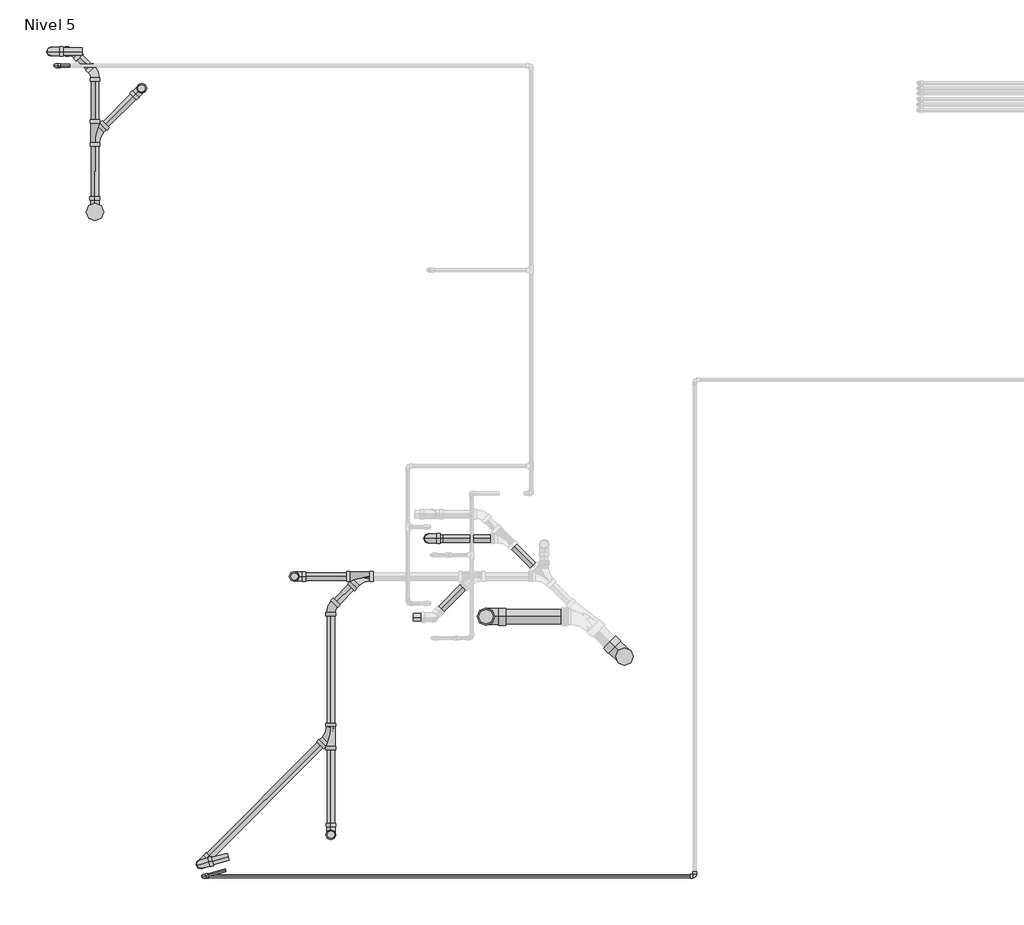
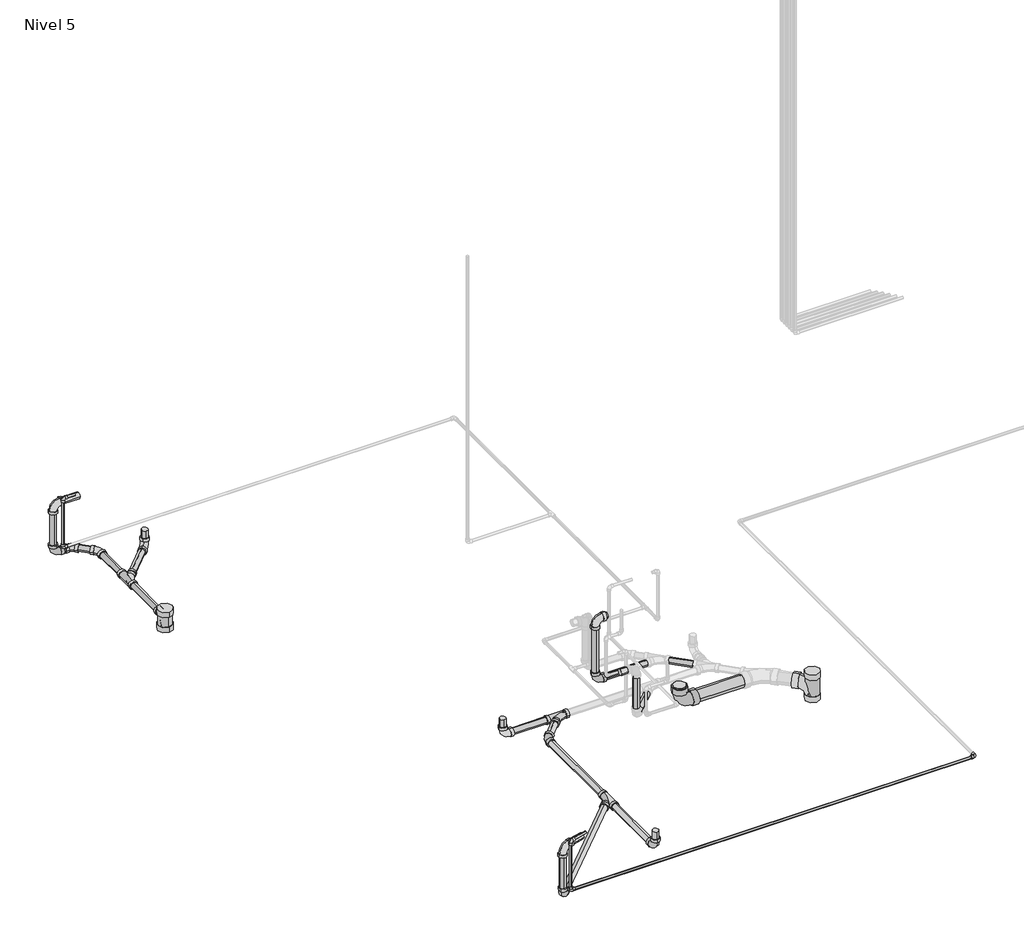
# One storey, part 1 of 6: 31 pipe segments, 23 pipe fittings.
"""IFC4 building model written with IfcOpenShell, lengths in millimetres."""

from ifc_helpers import new_model, si_unit, point, frame, frame_2d, origin, place, context, project, spatial, circle_curve, trimmed, segment, composite_curve, outline, extrude, transform, mapped, element, save
from components import pipe_fitting_0163322b, pipe_fitting_2a8dfbef, pipe_fitting_f7ed332b, m_codo_pvc_serie_40_9ad74631, m_codo_pvc_serie_40_dwv1_5c0ec739, m_codo_pvc_serie_40_dwv1_f5c0a64d, m_codo_pvc_serie_40_dwv1_6f1a2495

model = new_model("IFC4")

# Units and contexts
model_context = context("Model", 3, world=origin())
ifc_project = project(units=[si_unit("LENGTHUNIT", "METRE", prefix="MILLI")], contexts=[model_context])

# Site, building, storey
site = spatial("IfcSite", under=ifc_project)
building = spatial("IfcBuilding", under=site)
storey = spatial("IfcBuildingStorey", under=building, Name="Nivel 5", Elevation=10750.0)

# Pipe fittings
placement = place(None, origin())
pipe_fitting_shape = pipe_fitting_0163322b(model_context)
element("IfcPipeFitting", 1, ObjectType="M_Sanitario con te de reducción - PVC - Serie 40 - DWV : Estándar", at=placement, inside=storey, context=model_context, shape_type="MappedRepresentation", body=[
    mapped(pipe_fitting_shape, transform((-1127.6301597, 7668.282124, 10600.0), x_axis=(0.0, 1.0, 0.0), y_axis=(-1.0, 0.0, 0.0), z_axis=(0.0, 0.0, 1.0))),
])
element("IfcPipeFitting", 2, ObjectType="M_Sanitario con te de reducción - PVC - Serie 40 - DWV : Estándar", at=placement, inside=storey, context=model_context, shape_type="MappedRepresentation", body=[
    mapped(pipe_fitting_shape, transform((553.5658356, 3393.309347, 10600.0), x_axis=(0.0, -1.0, 0.0), y_axis=(1.0, 0.0, 0.0), z_axis=(0.0, 0.0, 1.0))),
])
element("IfcPipeFitting", 3, ObjectType="M_Sanitario con te de reducción - PVC - Serie 40 - DWV : Estándar", at=placement, inside=storey, context=model_context, shape_type="MappedRepresentation", body=[
    mapped(pipe_fitting_shape, transform((774.9011546, 4519.5791327, 10600.0), x_axis=(-1.0, 0.0, 0.0), y_axis=(0.0, 1.0, 0.0), z_axis=(0.0, 0.0, -1.0))),
])
pipe_fitting_2_shape = pipe_fitting_2a8dfbef(model_context)
element("IfcPipeFitting", 4, ObjectType="M_Sanitario con te de reducción - PVC - Serie 40 - DWV : Estándar", at=placement, inside=storey, context=model_context, shape_type="MappedRepresentation", body=[
    mapped(pipe_fitting_2_shape, transform((2645.0, 3948.3062341, 10600.0), x_axis=(0.0, 0.0, 1.0), y_axis=(0.7098215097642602, -0.7043815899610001, 0.0), z_axis=(0.7043815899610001, 0.7098215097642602, 0.0))),
])
pipe_fitting_3_shape = pipe_fitting_f7ed332b(model_context)
element("IfcPipeFitting", 5, ObjectType="M_Sanitario con te de reducción - PVC - Serie 40 - DWV : Estándar", at=placement, inside=storey, context=model_context, shape_type="MappedRepresentation", body=[
    mapped(pipe_fitting_3_shape, transform((-1128.3876566, 7119.3043981, 10600.0), x_axis=(0.0, 0.0, 1.0), y_axis=(-0.002102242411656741, -0.9999977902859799, 0.0), z_axis=(0.9999977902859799, -0.002102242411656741, 0.0))),
])
m_codo_pvc_serie_40_shape = m_codo_pvc_serie_40_9ad74631(model_context)
element("IfcPipeFitting", 6, ObjectType="M_Codo - PVC - Serie 40 : Estándar", at=placement, inside=storey, context=model_context, shape_type="MappedRepresentation", body=[
    mapped(m_codo_pvc_serie_40_shape, transform((-1408.4611801, 8163.1716188, 10700.0), x_axis=(-1.0, 0.0, 0.0), y_axis=(0.0, 0.0, 1.0), z_axis=(0.0, 1.0, 0.0))),
])
element("IfcPipeFitting", 7, ObjectType="M_Codo - PVC - Serie 40 : Estándar", at=placement, inside=storey, context=model_context, shape_type="MappedRepresentation", body=[
    mapped(m_codo_pvc_serie_40_shape, transform((-1408.4611801, 8163.1716188, 11150.0), x_axis=(0.0, 0.0, 1.0), y_axis=(1.0, 0.0, 0.0), z_axis=(0.0, 1.0, 0.0))),
])
element("IfcPipeFitting", 8, ObjectType="M_Codo - PVC - Serie 40 : Estándar", at=placement, inside=storey, context=model_context, shape_type="MappedRepresentation", body=[
    mapped(m_codo_pvc_serie_40_shape, transform((-352.1210753, 2381.9268515, 11150.0), x_axis=(-0.9659258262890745, -0.2588190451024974, 0.0), y_axis=(0.0, 0.0, -1.0), z_axis=(0.2588190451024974, -0.9659258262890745, 0.0))),
])
element("IfcPipeFitting", 9, ObjectType="M_Codo - PVC - Serie 40 : Estándar", at=placement, inside=storey, context=model_context, shape_type="MappedRepresentation", body=[
    mapped(m_codo_pvc_serie_40_shape, transform((-352.1210753, 2381.9268515, 10700.0), x_axis=(0.0, 0.0, -1.0), y_axis=(1.0, 0.0, 0.0), z_axis=(0.0, -1.0, 0.0))),
])
element("IfcPipeFitting", 10, ObjectType="M_Codo - PVC - Serie 40 : Estándar", at=placement, inside=storey, context=model_context, shape_type="MappedRepresentation", body=[
    mapped(m_codo_pvc_serie_40_shape, transform((3147.8789247, 2381.9268515, 10700.0), x_axis=(1.0, 0.0, 0.0), y_axis=(0.0, 1.0, 0.0), z_axis=(0.0, 0.0, 1.0))),
])
m_codo_pvc_serie_40_dwv1_shape = m_codo_pvc_serie_40_dwv1_5c0ec739(model_context)
element("IfcPipeFitting", 11, ObjectType="M_Codo - PVC - Serie 40 - DWV1 : Estándar 2", at=placement, inside=storey, context=model_context, shape_type="MappedRepresentation", body=[
    mapped(m_codo_pvc_serie_40_dwv1_shape, transform((-1437.6301597, 8263.282124, 11050.0), x_axis=(-1.0, 0.0, 0.0), y_axis=(0.0, 0.0, -1.0), z_axis=(0.0, -1.0, 0.0))),
])
element("IfcPipeFitting", 12, ObjectType="M_Codo - PVC - Serie 40 - DWV1 : Estándar 2", at=placement, inside=storey, context=model_context, shape_type="MappedRepresentation", body=[
    mapped(m_codo_pvc_serie_40_dwv1_shape, transform((-1437.6301597, 8263.282124, 10600.0), x_axis=(0.0, 0.0, -1.0), y_axis=(1.0, 0.0, 0.0), z_axis=(0.0, -1.0, 0.0))),
])
element("IfcPipeFitting", 13, ObjectType="M_Codo - PVC - Serie 40 - DWV1 : Estándar 2", at=placement, inside=storey, context=model_context, shape_type="MappedRepresentation", body=[
    mapped(m_codo_pvc_serie_40_dwv1_shape, transform((-795.6453116, 8000.2669721, 10600.0), x_axis=(0.7071067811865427, 0.7071067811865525, 0.0), y_axis=(0.0, 0.0, 1.0000000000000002), z_axis=(0.7071067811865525, -0.7071067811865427, 0.0))),
])
element("IfcPipeFitting", 14, ObjectType="M_Codo - PVC - Serie 40 - DWV1 : Estándar 2", at=placement, inside=storey, context=model_context, shape_type="MappedRepresentation", body=[
    mapped(m_codo_pvc_serie_40_dwv1_shape, transform((1250.0, 4790.0, 11160.6716548), x_axis=(-1.0, 0.0, 0.0), y_axis=(0.0, 0.0, -1.0), z_axis=(0.0, -1.0, 0.0))),
])
element("IfcPipeFitting", 15, ObjectType="M_Codo - PVC - Serie 40 - DWV1 : Estándar 2", at=placement, inside=storey, context=model_context, shape_type="MappedRepresentation", body=[
    mapped(m_codo_pvc_serie_40_dwv1_shape, transform((1250.0, 4790.0, 10600.0), x_axis=(0.0, 0.0, -1.0), y_axis=(1.0, 0.0, 0.0), z_axis=(0.0, -1.0, 0.0))),
])
element("IfcPipeFitting", 16, ObjectType="M_Codo - PVC - Serie 40 - DWV1 : Estándar 2", at=placement, inside=storey, context=model_context, shape_type="MappedRepresentation", body=[
    mapped(m_codo_pvc_serie_40_dwv1_shape, transform((-370.9157193, 2468.827792, 11050.0), x_axis=(-0.9659258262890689, -0.25881904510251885, 0.0), y_axis=(0.0, 0.0, -1.0), z_axis=(0.25881904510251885, -0.9659258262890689, 0.0))),
])
element("IfcPipeFitting", 17, ObjectType="M_Codo - PVC - Serie 40 - DWV1 : Estándar 2", at=placement, inside=storey, context=model_context, shape_type="MappedRepresentation", body=[
    mapped(m_codo_pvc_serie_40_dwv1_shape, transform((-370.9157193, 2468.827792, 10600.0), x_axis=(0.0, 0.0, -1.0), y_axis=(0.7071067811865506, 0.7071067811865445, 0.0), z_axis=(0.7071067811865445, -0.7071067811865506, 0.0))),
])
element("IfcPipeFitting", 18, ObjectType="M_Codo - PVC - Serie 40 - DWV1 : Estándar 2", at=placement, inside=storey, context=model_context, shape_type="MappedRepresentation", body=[
    mapped(m_codo_pvc_serie_40_dwv1_shape, transform((553.5658356, 2678.1090702, 10600.0), x_axis=(0.0, -1.0, 0.0), y_axis=(0.0, 0.0, 1.0), z_axis=(-1.0, 0.0, 0.0))),
])
element("IfcPipeFitting", 19, ObjectType="M_Codo - PVC - Serie 40 - DWV1 : Estándar 2", at=placement, inside=storey, context=model_context, shape_type="MappedRepresentation", body=[
    mapped(m_codo_pvc_serie_40_dwv1_shape, transform((293.5658356, 4519.5791327, 10600.0), x_axis=(-1.0, 0.0, 0.0), y_axis=(0.0, 0.0, 1.0), z_axis=(0.0, 1.0, 0.0))),
])
m_codo_pvc_serie_40_dwv1_2_shape = m_codo_pvc_serie_40_dwv1_f5c0a64d(model_context)
element("IfcPipeFitting", 20, ObjectType="M_Codo - PVC - Serie 40 - DWV1 : Estándar 2", at=placement, inside=storey, context=model_context, shape_type="MappedRepresentation", body=[
    mapped(m_codo_pvc_serie_40_dwv1_2_shape, transform((1659.2960274, 4233.3960274, 10600.0), x_axis=(0.0, 0.0, -1.0), y_axis=(1.0, 0.0, 0.0), z_axis=(0.0, -1.0, 0.0))),
])
m_codo_pvc_serie_40_dwv1_3_shape = m_codo_pvc_serie_40_dwv1_6f1a2495(model_context)
element("IfcPipeFitting", 21, ObjectType="M_Codo - PVC - Serie 40 - DWV1 : Estándar 2", at=placement, inside=storey, context=model_context, shape_type="MappedRepresentation", body=[
    mapped(m_codo_pvc_serie_40_dwv1_3_shape, transform((-1280.1722222, 8263.282124, 10600.0), x_axis=(-0.7071067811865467, 0.7071067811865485, 0.0), y_axis=(-0.7071067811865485, -0.7071067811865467, 0.0), z_axis=(0.0, 0.0, 1.0))),
])
element("IfcPipeFitting", 22, ObjectType="M_Codo - PVC - Serie 40 - DWV1 : Estándar 2", at=placement, inside=storey, context=model_context, shape_type="MappedRepresentation", body=[
    mapped(m_codo_pvc_serie_40_dwv1_3_shape, transform((-1127.6301597, 8110.7400615, 10600.0), x_axis=(0.0, 1.0, 0.0), y_axis=(-1.0, 0.0, 0.0), z_axis=(0.0, 0.0, 1.0))),
])
element("IfcPipeFitting", 23, ObjectType="M_Codo - PVC - Serie 40 - DWV1 : Estándar 2", at=placement, inside=storey, context=model_context, shape_type="MappedRepresentation", body=[
    mapped(m_codo_pvc_serie_40_dwv1_3_shape, transform((553.5658356, 4298.2438137, 10600.0), x_axis=(-0.7071067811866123, -0.7071067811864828, 0.0), y_axis=(0.7071067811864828, -0.7071067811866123, 0.0), z_axis=(0.0, 0.0, 1.0))),
])

# Pipe segments
element("IfcPipeSegment", 24, ObjectType="Tuberia PVC Agua Fria", at=placement, inside=storey, context=model_context, shape_type="SweptSolid", body=[
    extrude(outline(composite_curve([segment(trimmed(circle_curve(frame_2d((8163.1716188, 11150.0)), 10.31875), [point((8152.8528688, 11150.0))], [point((8163.1716188, 11160.31875))], False, "CARTESIAN"), True, "CONTINUOUS"), segment(trimmed(circle_curve(frame_2d((8163.1716188, 11150.0)), 10.31875), [point((8163.1716188, 11160.31875))], [point((8173.4903688, 11150.0))], False, "CARTESIAN"), True, "CONTINUOUS"), segment(trimmed(circle_curve(frame_2d((8163.1716188, 11150.0)), 10.31875), [point((8173.4903688, 11150.0))], [point((8163.1716188, 11139.68125))], False, "CARTESIAN"), True, "CONTINUOUS"), segment(trimmed(circle_curve(frame_2d((8163.1716188, 11150.0)), 10.31875), [point((8163.1716188, 11139.68125))], [point((8152.8528688, 11150.0))], False, "CARTESIAN"), True, "CONTINUOUS")], self_intersect=False)), frame((-1375.0601801, 0.0, 0.0), z_axis=(1.0, 0.0, 0.0), x_axis=(0.0, 1.0, 0.0)), (0.0, 0.0, 1.0), 66.599),
])
element("IfcPipeSegment", 25, ObjectType="Tuberia PVC Agua Fria", at=placement, inside=storey, context=model_context, shape_type="SweptSolid", body=[
    extrude(outline(composite_curve([segment(trimmed(circle_curve(frame_2d((-1408.4611801, 8163.1716188)), 10.31875), [point((-1418.7799301, 8163.1716188))], [point((-1408.4611801, 8173.4903688))], False, "CARTESIAN"), True, "CONTINUOUS"), segment(trimmed(circle_curve(frame_2d((-1408.4611801, 8163.1716188)), 10.31875), [point((-1408.4611801, 8173.4903688))], [point((-1398.1424301, 8163.1716188))], False, "CARTESIAN"), True, "CONTINUOUS"), segment(trimmed(circle_curve(frame_2d((-1408.4611801, 8163.1716188)), 10.31875), [point((-1398.1424301, 8163.1716188))], [point((-1408.4611801, 8152.8528688))], False, "CARTESIAN"), True, "CONTINUOUS"), segment(trimmed(circle_curve(frame_2d((-1408.4611801, 8163.1716188)), 10.31875), [point((-1408.4611801, 8152.8528688))], [point((-1418.7799301, 8163.1716188))], False, "CARTESIAN"), True, "CONTINUOUS")], self_intersect=False)), frame((0.0, 0.0, 10733.401), z_axis=(0.0, 0.0, 1.0), x_axis=(1.0, 0.0, 0.0)), (0.0, 0.0, 1.0), 383.198),
])
element("IfcPipeSegment", 26, ObjectType="Tuberia PVC Agua Fria", at=placement, inside=storey, context=model_context, shape_type="SweptSolid", body=[
    extrude(outline(composite_curve([segment(trimmed(circle_curve(frame_2d((0.0, -10.31875)), 10.31875), [point((-10.31875, -10.31875))], [point((0.0, 0.0))], False, "CARTESIAN"), True, "CONTINUOUS"), segment(trimmed(circle_curve(frame_2d((0.0, -10.31875)), 10.31875), [point((0.0, 0.0))], [point((10.31875, -10.31875))], False, "CARTESIAN"), True, "CONTINUOUS"), segment(trimmed(circle_curve(frame_2d((0.0, -10.31875)), 10.31875), [point((10.31875, -10.31875))], [point((0.0, -20.6375))], False, "CARTESIAN"), True, "CONTINUOUS"), segment(trimmed(circle_curve(frame_2d((0.0, -10.31875)), 10.31875), [point((0.0, -20.6375))], [point((-10.31875, -10.31875))], False, "CARTESIAN"), True, "CONTINUOUS")], self_intersect=False)), frame((-319.8581868, 2390.5716664, 11139.68125), z_axis=(0.9659258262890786, 0.2588190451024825, 0.0), x_axis=(0.2588190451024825, -0.9659258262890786, 0.0)), (0.0, 0.0, 1.0), 126.599),
])
element("IfcPipeSegment", 27, ObjectType="Tuberia PVC Agua Fria", at=placement, inside=storey, context=model_context, shape_type="SweptSolid", body=[
    extrude(outline(composite_curve([segment(trimmed(circle_curve(frame_2d((2381.9268515, 10700.0)), 10.31875), [point((2371.6081015, 10700.0))], [point((2381.9268515, 10710.31875))], False, "CARTESIAN"), True, "CONTINUOUS"), segment(trimmed(circle_curve(frame_2d((2381.9268515, 10700.0)), 10.31875), [point((2381.9268515, 10710.31875))], [point((2392.2456015, 10700.0))], False, "CARTESIAN"), True, "CONTINUOUS"), segment(trimmed(circle_curve(frame_2d((2381.9268515, 10700.0)), 10.31875), [point((2392.2456015, 10700.0))], [point((2381.9268515, 10689.68125))], False, "CARTESIAN"), True, "CONTINUOUS"), segment(trimmed(circle_curve(frame_2d((2381.9268515, 10700.0)), 10.31875), [point((2381.9268515, 10689.68125))], [point((2371.6081015, 10700.0))], False, "CARTESIAN"), True, "CONTINUOUS")], self_intersect=False)), frame((-318.7200753, 0.0, 0.0), z_axis=(1.0, 0.0, 0.0), x_axis=(0.0, 1.0, 0.0)), (0.0, 0.0, 1.0), 3433.198),
])
element("IfcPipeSegment", 28, ObjectType="Tuberia PVC Agua Fria", at=placement, inside=storey, context=model_context, shape_type="SweptSolid", body=[
    extrude(outline(composite_curve([segment(trimmed(circle_curve(frame_2d((-352.1210753, 2381.9268515)), 10.31875), [point((-341.8023253, 2381.9268515))], [point((-352.1210753, 2371.6081015))], False, "CARTESIAN"), True, "CONTINUOUS"), segment(trimmed(circle_curve(frame_2d((-352.1210753, 2381.9268515)), 10.31875), [point((-352.1210753, 2371.6081015))], [point((-362.4398253, 2381.9268515))], False, "CARTESIAN"), True, "CONTINUOUS"), segment(trimmed(circle_curve(frame_2d((-352.1210753, 2381.9268515)), 10.31875), [point((-362.4398253, 2381.9268515))], [point((-352.1210753, 2392.2456015))], False, "CARTESIAN"), True, "CONTINUOUS"), segment(trimmed(circle_curve(frame_2d((-352.1210753, 2381.9268515)), 10.31875), [point((-352.1210753, 2392.2456015))], [point((-341.8023253, 2381.9268515))], False, "CARTESIAN"), True, "CONTINUOUS")], self_intersect=False)), frame((0.0, 0.0, 10733.401), z_axis=(0.0, 0.0, 1.0), x_axis=(1.0, 0.0, 0.0)), (0.0, 0.0, 1.0), 383.198),
])
element("IfcPipeSegment", 29, ObjectType="Tuberia PVC Sanitario", at=placement, inside=storey, context=model_context, shape_type="SweptSolid", body=[
    extrude(outline(composite_curve([segment(trimmed(circle_curve(frame_2d((8263.282124, 11050.0)), 26.9875), [point((8290.269624, 11050.0))], [point((8263.282124, 11023.0125))], False, "CARTESIAN"), True, "CONTINUOUS"), segment(trimmed(circle_curve(frame_2d((8263.282124, 11050.0)), 26.9875), [point((8263.282124, 11023.0125))], [point((8236.294624, 11050.0))], False, "CARTESIAN"), True, "CONTINUOUS"), segment(trimmed(circle_curve(frame_2d((8263.282124, 11050.0)), 26.9875), [point((8236.294624, 11050.0))], [point((8263.282124, 11076.9875))], False, "CARTESIAN"), True, "CONTINUOUS"), segment(trimmed(circle_curve(frame_2d((8263.282124, 11050.0)), 26.9875), [point((8263.282124, 11076.9875))], [point((8290.269624, 11050.0))], False, "CARTESIAN"), True, "CONTINUOUS")], self_intersect=False)), frame((-1355.0880972, 0.0, 0.0), z_axis=(1.0, 0.0, 0.0), x_axis=(0.0, 1.0, 0.0)), (0.0, 0.0, 1.0), 137.4579375),
])
element("IfcPipeSegment", 30, ObjectType="Tuberia PVC Sanitario", at=placement, inside=storey, context=model_context, shape_type="SweptSolid", body=[
    extrude(outline(composite_curve([segment(trimmed(circle_curve(frame_2d((8263.282124, 10600.0)), 26.9875), [point((8236.294624, 10600.0))], [point((8263.282124, 10626.9875))], False, "CARTESIAN"), True, "CONTINUOUS"), segment(trimmed(circle_curve(frame_2d((8263.282124, 10600.0)), 26.9875), [point((8263.282124, 10626.9875))], [point((8290.269624, 10600.0))], False, "CARTESIAN"), True, "CONTINUOUS"), segment(trimmed(circle_curve(frame_2d((8263.282124, 10600.0)), 26.9875), [point((8290.269624, 10600.0))], [point((8263.282124, 10573.0125))], False, "CARTESIAN"), True, "CONTINUOUS"), segment(trimmed(circle_curve(frame_2d((8263.282124, 10600.0)), 26.9875), [point((8263.282124, 10573.0125))], [point((8236.294624, 10600.0))], False, "CARTESIAN"), True, "CONTINUOUS")], self_intersect=False)), frame((-1355.0880972, 0.0, 0.0), z_axis=(1.0, 0.0, 0.0), x_axis=(0.0, 1.0, 0.0)), (0.0, 0.0, 1.0), 14.4876875),
])
element("IfcPipeSegment", 31, ObjectType="Tuberia PVC Sanitario", at=placement, inside=storey, context=model_context, shape_type="SweptSolid", body=[
    extrude(outline(composite_curve([segment(trimmed(circle_curve(frame_2d((-1437.6301597, 8263.282124)), 26.9875), [point((-1410.6426597, 8263.282124))], [point((-1437.6301597, 8236.294624))], False, "CARTESIAN"), True, "CONTINUOUS"), segment(trimmed(circle_curve(frame_2d((-1437.6301597, 8263.282124)), 26.9875), [point((-1437.6301597, 8236.294624))], [point((-1464.6176597, 8263.282124))], False, "CARTESIAN"), True, "CONTINUOUS"), segment(trimmed(circle_curve(frame_2d((-1437.6301597, 8263.282124)), 26.9875), [point((-1464.6176597, 8263.282124))], [point((-1437.6301597, 8290.269624))], False, "CARTESIAN"), True, "CONTINUOUS"), segment(trimmed(circle_curve(frame_2d((-1437.6301597, 8263.282124)), 26.9875), [point((-1437.6301597, 8290.269624))], [point((-1410.6426597, 8263.282124))], False, "CARTESIAN"), True, "CONTINUOUS")], self_intersect=False)), frame((0.0, 0.0, 10682.5420625), z_axis=(0.0, 0.0, 1.0), x_axis=(1.0, 0.0, 0.0)), (0.0, 0.0, 1.0), 284.915875),
])
element("IfcPipeSegment", 32, ObjectType="Tuberia PVC Sanitario", at=placement, inside=storey, context=model_context, shape_type="SweptSolid", body=[
    extrude(outline(composite_curve([segment(trimmed(circle_curve(frame_2d((0.0, -26.9875)), 26.9875), [point((0.0, 0.0))], [point((26.9875, -26.9875))], False, "CARTESIAN"), True, "CONTINUOUS"), segment(trimmed(circle_curve(frame_2d((0.0, -26.9875)), 26.9875), [point((26.9875, -26.9875))], [point((0.0, -53.975))], False, "CARTESIAN"), True, "CONTINUOUS"), segment(trimmed(circle_curve(frame_2d((0.0, -26.9875)), 26.9875), [point((0.0, -53.975))], [point((-26.9875, -26.9875))], False, "CARTESIAN"), True, "CONTINUOUS"), segment(trimmed(circle_curve(frame_2d((0.0, -26.9875)), 26.9875), [point((-26.9875, -26.9875))], [point((0.0, 0.0))], False, "CARTESIAN"), True, "CONTINUOUS")], self_intersect=False)), frame((-1155.1465802, 7228.0597434, 10600.0), z_axis=(0.0014679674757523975, 0.9999989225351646, 0.0), x_axis=(0.0, 0.0, -1.0)), (0.0, 0.0, 1.0), 360.3279189),
])
element("IfcPipeSegment", 33, ObjectType="Tuberia PVC Sanitario", at=placement, inside=storey, context=model_context, shape_type="SweptSolid", body=[
    extrude(outline(composite_curve([segment(trimmed(circle_curve(frame_2d((0.0, 26.9875)), 26.9875), [point((26.9875001, 26.9875))], [point((0.0, 0.0))], False, "CARTESIAN"), True, "CONTINUOUS"), segment(trimmed(circle_curve(frame_2d((0.0, 26.9875)), 26.9875), [point((0.0, 0.0))], [point((-26.9874999, 26.9875))], False, "CARTESIAN"), True, "CONTINUOUS"), segment(trimmed(circle_curve(frame_2d((0.0, 26.9875)), 26.9875), [point((-26.9874999, 26.9875))], [point((0.0, 53.975))], False, "CARTESIAN"), True, "CONTINUOUS"), segment(trimmed(circle_curve(frame_2d((0.0, 26.9875)), 26.9875), [point((0.0, 53.975))], [point((26.9875001, 26.9875))], False, "CARTESIAN"), True, "CONTINUOUS")], self_intersect=False)), frame((-1050.6703499, 7745.2419338, 10626.9875), z_axis=(0.7071067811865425, 0.7071067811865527, 0.0), x_axis=(0.7071067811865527, -0.7071067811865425, 0.0)), (0.0, 0.0, 1.0), 278.1178055),
])
element("IfcPipeSegment", 34, ObjectType="Tuberia PVC Sanitario", at=placement, inside=storey, context=model_context, shape_type="SweptSolid", body=[
    extrude(outline(composite_curve([segment(trimmed(circle_curve(frame_2d((0.0, -26.9875)), 26.9875), [point((-26.9875001, -26.9875))], [point((0.0, 0.0))], False, "CARTESIAN"), True, "CONTINUOUS"), segment(trimmed(circle_curve(frame_2d((0.0, -26.9875)), 26.9875), [point((0.0, 0.0))], [point((26.9875, -26.9875))], False, "CARTESIAN"), True, "CONTINUOUS"), segment(trimmed(circle_curve(frame_2d((0.0, -26.9875)), 26.9875), [point((26.9875, -26.9875))], [point((0.0, -53.975))], False, "CARTESIAN"), True, "CONTINUOUS"), segment(trimmed(circle_curve(frame_2d((0.0, -26.9875)), 26.9875), [point((0.0, -53.975))], [point((-26.9875001, -26.9875))], False, "CARTESIAN"), True, "CONTINUOUS")], self_intersect=False)), frame((-1170.3593408, 8153.4692427, 10573.0125), z_axis=(-0.7071067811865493, 0.7071067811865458, 0.0), x_axis=(0.7071067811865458, 0.7071067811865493, 0.0)), (0.0, 0.0, 1.0), 94.8706786),
])
element("IfcPipeSegment", 35, ObjectType="Tuberia PVC Sanitario", at=placement, inside=storey, context=model_context, shape_type="SweptSolid", body=[
    extrude(outline(composite_curve([segment(trimmed(circle_curve(frame_2d((10600.0, -1127.6301597)), 26.9875), [point((10600.0, -1154.6176597))], [point((10573.0125, -1127.6301597))], False, "CARTESIAN"), True, "CONTINUOUS"), segment(trimmed(circle_curve(frame_2d((10600.0, -1127.6301597)), 26.9875), [point((10573.0125, -1127.6301597))], [point((10600.0, -1100.6426597))], False, "CARTESIAN"), True, "CONTINUOUS"), segment(trimmed(circle_curve(frame_2d((10600.0, -1127.6301597)), 26.9875), [point((10600.0, -1100.6426597))], [point((10626.9875, -1127.6301597))], False, "CARTESIAN"), True, "CONTINUOUS"), segment(trimmed(circle_curve(frame_2d((10600.0, -1127.6301597)), 26.9875), [point((10626.9875, -1127.6301597))], [point((10600.0, -1154.6176597))], False, "CARTESIAN"), True, "CONTINUOUS")], self_intersect=False)), frame((0.0, 7777.1197307, 0.0), z_axis=(0.0, 1.0, 0.0), x_axis=(0.0, 0.0, 1.0)), (0.0, 0.0, 1.0), 273.1921433),
])
element("IfcPipeSegment", 36, ObjectType="Tuberia PVC Sanitario", at=placement, inside=storey, context=model_context, shape_type="SweptSolid", body=[
    extrude(outline(composite_curve([segment(trimmed(circle_curve(frame_2d((-795.6453116, 8000.2669721)), 26.9875), [point((-822.6328116, 8000.2669721))], [point((-795.6453116, 8027.2544721))], False, "CARTESIAN"), True, "CONTINUOUS"), segment(trimmed(circle_curve(frame_2d((-795.6453116, 8000.2669721)), 26.9875), [point((-795.6453116, 8027.2544721))], [point((-768.6578116, 8000.2669721))], False, "CARTESIAN"), True, "CONTINUOUS"), segment(trimmed(circle_curve(frame_2d((-795.6453116, 8000.2669721)), 26.9875), [point((-768.6578116, 8000.2669721))], [point((-795.6453116, 7973.2794721))], False, "CARTESIAN"), True, "CONTINUOUS"), segment(trimmed(circle_curve(frame_2d((-795.6453116, 8000.2669721)), 26.9875), [point((-795.6453116, 7973.2794721))], [point((-822.6328116, 8000.2669721))], False, "CARTESIAN"), True, "CONTINUOUS")], self_intersect=False)), frame((0.0, 0.0, 10682.5420625), z_axis=(0.0, 0.0, 1.0), x_axis=(1.0, 0.0, 0.0)), (0.0, 0.0, 1.0), 67.4579375),
])
element("IfcPipeSegment", 37, ObjectType="Tuberia PVC Sanitario", at=placement, inside=storey, context=model_context, shape_type="SweptSolid", body=[
    extrude(outline(composite_curve([segment(trimmed(circle_curve(frame_2d((4233.3960274, 10600.0)), 52.3875), [point((4181.0085274, 10600.0))], [point((4233.3960274, 10652.3875))], False, "CARTESIAN"), True, "CONTINUOUS"), segment(trimmed(circle_curve(frame_2d((4233.3960274, 10600.0)), 52.3875), [point((4233.3960274, 10652.3875))], [point((4285.7835274, 10600.0))], False, "CARTESIAN"), True, "CONTINUOUS"), segment(trimmed(circle_curve(frame_2d((4233.3960274, 10600.0)), 52.3875), [point((4285.7835274, 10600.0))], [point((4233.3960274, 10547.6125))], False, "CARTESIAN"), True, "CONTINUOUS"), segment(trimmed(circle_curve(frame_2d((4233.3960274, 10600.0)), 52.3875), [point((4233.3960274, 10547.6125))], [point((4181.0085274, 10600.0))], False, "CARTESIAN"), True, "CONTINUOUS")], self_intersect=False)), frame((1800.7660899, 0.0, 0.0), z_axis=(1.0, 0.0, 0.0), x_axis=(0.0, 1.0, 0.0)), (0.0, 0.0, 1.0), 396.3523308),
])
element("IfcPipeSegment", 38, ObjectType="Tuberia PVC Sanitario", at=placement, inside=storey, context=model_context, shape_type="SweptSolid", body=[
    extrude(outline(composite_curve([segment(trimmed(circle_curve(frame_2d((1659.2960274, 4233.3960274)), 52.3875), [point((1711.6835274, 4233.3960274))], [point((1659.2960274, 4181.0085274))], False, "CARTESIAN"), True, "CONTINUOUS"), segment(trimmed(circle_curve(frame_2d((1659.2960274, 4233.3960274)), 52.3875), [point((1659.2960274, 4181.0085274))], [point((1606.9085274, 4233.3960274))], False, "CARTESIAN"), True, "CONTINUOUS"), segment(trimmed(circle_curve(frame_2d((1659.2960274, 4233.3960274)), 52.3875), [point((1606.9085274, 4233.3960274))], [point((1659.2960274, 4285.7835274))], False, "CARTESIAN"), True, "CONTINUOUS"), segment(trimmed(circle_curve(frame_2d((1659.2960274, 4233.3960274)), 52.3875), [point((1659.2960274, 4285.7835274))], [point((1711.6835274, 4233.3960274))], False, "CARTESIAN"), True, "CONTINUOUS")], self_intersect=False)), frame((0.0, 0.0, 10741.4700625), z_axis=(0.0, 0.0, 1.0), x_axis=(1.0, 0.0, 0.0)), (0.0, 0.0, 1.0), 8.5299375),
])
element("IfcPipeSegment", 39, ObjectType="Tuberia PVC Sanitario", at=placement, inside=storey, context=model_context, shape_type="SweptSolid", body=[
    extrude(outline(composite_curve([segment(trimmed(circle_curve(frame_2d((4790.0, 11160.6716548)), 26.9875), [point((4816.9875, 11160.6716548))], [point((4790.0, 11133.6841548))], False, "CARTESIAN"), True, "CONTINUOUS"), segment(trimmed(circle_curve(frame_2d((4790.0, 11160.6716548)), 26.9875), [point((4790.0, 11133.6841548))], [point((4763.0125, 11160.6716548))], False, "CARTESIAN"), True, "CONTINUOUS"), segment(trimmed(circle_curve(frame_2d((4790.0, 11160.6716548)), 26.9875), [point((4763.0125, 11160.6716548))], [point((4790.0, 11187.6591548))], False, "CARTESIAN"), True, "CONTINUOUS"), segment(trimmed(circle_curve(frame_2d((4790.0, 11160.6716548)), 26.9875), [point((4790.0, 11187.6591548))], [point((4816.9875, 11160.6716548))], False, "CARTESIAN"), True, "CONTINUOUS")], self_intersect=False)), frame((1332.5420625, 0.0, 0.0), z_axis=(1.0, 0.0, 0.0), x_axis=(0.0, 1.0, 0.0)), (0.0, 0.0, 1.0), 17.4579375),
])
element("IfcPipeSegment", 40, ObjectType="Tuberia PVC Sanitario", at=placement, inside=storey, context=model_context, shape_type="SweptSolid", body=[
    extrude(outline(composite_curve([segment(trimmed(circle_curve(frame_2d((4790.0, 10600.0)), 26.9875), [point((4763.0125, 10600.0))], [point((4790.0, 10626.9875))], False, "CARTESIAN"), True, "CONTINUOUS"), segment(trimmed(circle_curve(frame_2d((4790.0, 10600.0)), 26.9875), [point((4790.0, 10626.9875))], [point((4816.9875, 10600.0))], False, "CARTESIAN"), True, "CONTINUOUS"), segment(trimmed(circle_curve(frame_2d((4790.0, 10600.0)), 26.9875), [point((4816.9875, 10600.0))], [point((4790.0, 10573.0125))], False, "CARTESIAN"), True, "CONTINUOUS"), segment(trimmed(circle_curve(frame_2d((4790.0, 10600.0)), 26.9875), [point((4790.0, 10573.0125))], [point((4763.0125, 10600.0))], False, "CARTESIAN"), True, "CONTINUOUS")], self_intersect=False)), frame((1332.5420625, 0.0, 0.0), z_axis=(1.0, 0.0, 0.0), x_axis=(0.0, 1.0, 0.0)), (0.0, 0.0, 1.0), 361.3123855),
])
element("IfcPipeSegment", 41, ObjectType="Tuberia PVC Sanitario", at=placement, inside=storey, context=model_context, shape_type="SweptSolid", body=[
    extrude(outline(composite_curve([segment(trimmed(circle_curve(frame_2d((1250.0, 4790.0)), 26.9875), [point((1276.9875, 4790.0))], [point((1250.0, 4763.0125))], False, "CARTESIAN"), True, "CONTINUOUS"), segment(trimmed(circle_curve(frame_2d((1250.0, 4790.0)), 26.9875), [point((1250.0, 4763.0125))], [point((1223.0125, 4790.0))], False, "CARTESIAN"), True, "CONTINUOUS"), segment(trimmed(circle_curve(frame_2d((1250.0, 4790.0)), 26.9875), [point((1223.0125, 4790.0))], [point((1250.0, 4816.9875))], False, "CARTESIAN"), True, "CONTINUOUS"), segment(trimmed(circle_curve(frame_2d((1250.0, 4790.0)), 26.9875), [point((1250.0, 4816.9875))], [point((1276.9875, 4790.0))], False, "CARTESIAN"), True, "CONTINUOUS")], self_intersect=False)), frame((0.0, 0.0, 10682.5420625), z_axis=(0.0, 0.0, 1.0), x_axis=(1.0, 0.0, 0.0)), (0.0, 0.0, 1.0), 395.5875298),
])
element("IfcPipeSegment", 42, ObjectType="Tuberia PVC Sanitario", at=placement, inside=storey, context=model_context, shape_type="SweptSolid", body=[
    extrude(outline(composite_curve([segment(trimmed(circle_curve(frame_2d((0.0, -26.9875)), 26.9875), [point((-26.9875, -26.9875))], [point((0.0, 0.0))], False, "CARTESIAN"), True, "CONTINUOUS"), segment(trimmed(circle_curve(frame_2d((0.0, -26.9875)), 26.9875), [point((0.0, 0.0))], [point((26.9875, -26.9875))], False, "CARTESIAN"), True, "CONTINUOUS"), segment(trimmed(circle_curve(frame_2d((0.0, -26.9875)), 26.9875), [point((26.9875, -26.9875))], [point((0.0, -53.975))], False, "CARTESIAN"), True, "CONTINUOUS"), segment(trimmed(circle_curve(frame_2d((0.0, -26.9875)), 26.9875), [point((0.0, -53.975))], [point((-26.9875, -26.9875))], False, "CARTESIAN"), True, "CONTINUOUS")], self_intersect=False)), frame((1994.6882079, 4598.0038468, 10573.0125), z_axis=(-0.7071067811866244, 0.7071067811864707, 0.0), x_axis=(0.7071067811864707, 0.7071067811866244, 0.0)), (0.0, 0.0, 1.0), 191.589097),
])
element("IfcPipeSegment", 43, ObjectType="Tuberia PVC Sanitario", at=placement, inside=storey, context=model_context, shape_type="SweptSolid", body=[
    extrude(outline(composite_curve([segment(trimmed(circle_curve(frame_2d((0.0, -26.9875)), 26.9875), [point((-26.9875001, -26.9875))], [point((0.0, 0.0))], False, "CARTESIAN"), True, "CONTINUOUS"), segment(trimmed(circle_curve(frame_2d((0.0, -26.9875)), 26.9875), [point((0.0, 0.0))], [point((26.9875, -26.9875))], False, "CARTESIAN"), True, "CONTINUOUS"), segment(trimmed(circle_curve(frame_2d((0.0, -26.9875)), 26.9875), [point((26.9875, -26.9875))], [point((0.0, -53.975))], False, "CARTESIAN"), True, "CONTINUOUS"), segment(trimmed(circle_curve(frame_2d((0.0, -26.9875)), 26.9875), [point((0.0, -53.975))], [point((-26.9875001, -26.9875))], False, "CARTESIAN"), True, "CONTINUOUS")], self_intersect=False)), frame((-291.1862094, 2490.1912498, 11023.0125), z_axis=(0.9659258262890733, 0.2588190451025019, 0.0), x_axis=(0.2588190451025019, -0.9659258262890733, 0.0)), (0.0, 0.0, 1.0), 117.4579375),
])
element("IfcPipeSegment", 44, ObjectType="Tuberia PVC Sanitario", at=placement, inside=storey, context=model_context, shape_type="SweptSolid", body=[
    extrude(outline(composite_curve([segment(trimmed(circle_curve(frame_2d((0.0, -26.9875)), 26.9875), [point((-26.9875, -26.9875))], [point((0.0, 0.0))], False, "CARTESIAN"), True, "CONTINUOUS"), segment(trimmed(circle_curve(frame_2d((0.0, -26.9875)), 26.9875), [point((0.0, 0.0))], [point((26.9875, -26.9875))], False, "CARTESIAN"), True, "CONTINUOUS"), segment(trimmed(circle_curve(frame_2d((0.0, -26.9875)), 26.9875), [point((26.9875, -26.9875))], [point((0.0, -53.975))], False, "CARTESIAN"), True, "CONTINUOUS"), segment(trimmed(circle_curve(frame_2d((0.0, -26.9875)), 26.9875), [point((0.0, -53.975))], [point((-26.9875, -26.9875))], False, "CARTESIAN"), True, "CONTINUOUS")], self_intersect=False)), frame((-312.5496672, 2527.1938442, 10573.0125), z_axis=(0.707106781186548, 0.7071067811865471, 0.0), x_axis=(0.7071067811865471, -0.707106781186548, 0.0)), (0.0, 0.0, 1.0), 1116.034684),
])
element("IfcPipeSegment", 45, ObjectType="Tuberia PVC Sanitario", at=placement, inside=storey, context=model_context, shape_type="SweptSolid", body=[
    extrude(outline(composite_curve([segment(trimmed(circle_curve(frame_2d((-370.9157193, 2468.827792)), 26.9875), [point((-343.9282193, 2468.827792))], [point((-370.9157193, 2441.840292))], False, "CARTESIAN"), True, "CONTINUOUS"), segment(trimmed(circle_curve(frame_2d((-370.9157193, 2468.827792)), 26.9875), [point((-370.9157193, 2441.840292))], [point((-397.9032193, 2468.827792))], False, "CARTESIAN"), True, "CONTINUOUS"), segment(trimmed(circle_curve(frame_2d((-370.9157193, 2468.827792)), 26.9875), [point((-397.9032193, 2468.827792))], [point((-370.9157193, 2495.815292))], False, "CARTESIAN"), True, "CONTINUOUS"), segment(trimmed(circle_curve(frame_2d((-370.9157193, 2468.827792)), 26.9875), [point((-370.9157193, 2495.815292))], [point((-343.9282193, 2468.827792))], False, "CARTESIAN"), True, "CONTINUOUS")], self_intersect=False)), frame((0.0, 0.0, 10682.5420625), z_axis=(0.0, 0.0, 1.0), x_axis=(1.0, 0.0, 0.0)), (0.0, 0.0, 1.0), 284.915875),
])
element("IfcPipeSegment", 46, ObjectType="Tuberia PVC Sanitario", at=placement, inside=storey, context=model_context, shape_type="SweptSolid", body=[
    extrude(outline(composite_curve([segment(trimmed(circle_curve(frame_2d((553.5658356, 2678.1090702)), 26.9875), [point((526.5783356, 2678.1090702))], [point((553.5658356, 2705.0965702))], False, "CARTESIAN"), True, "CONTINUOUS"), segment(trimmed(circle_curve(frame_2d((553.5658356, 2678.1090702)), 26.9875), [point((553.5658356, 2705.0965702))], [point((580.5533356, 2678.1090702))], False, "CARTESIAN"), True, "CONTINUOUS"), segment(trimmed(circle_curve(frame_2d((553.5658356, 2678.1090702)), 26.9875), [point((580.5533356, 2678.1090702))], [point((553.5658356, 2651.1215702))], False, "CARTESIAN"), True, "CONTINUOUS"), segment(trimmed(circle_curve(frame_2d((553.5658356, 2678.1090702)), 26.9875), [point((553.5658356, 2651.1215702))], [point((526.5783356, 2678.1090702))], False, "CARTESIAN"), True, "CONTINUOUS")], self_intersect=False)), frame((0.0, 0.0, 10682.5420625), z_axis=(0.0, 0.0, 1.0), x_axis=(1.0, 0.0, 0.0)), (0.0, 0.0, 1.0), 67.4579375),
])
element("IfcPipeSegment", 47, ObjectType="Tuberia PVC Sanitario", at=placement, inside=storey, context=model_context, shape_type="SweptSolid", body=[
    extrude(outline(composite_curve([segment(trimmed(circle_curve(frame_2d((10600.0, 553.5658356)), 26.9875), [point((10600.0, 580.5533356))], [point((10626.9875, 553.5658356))], False, "CARTESIAN"), True, "CONTINUOUS"), segment(trimmed(circle_curve(frame_2d((10600.0, 553.5658356)), 26.9875), [point((10626.9875, 553.5658356))], [point((10600.0, 526.5783356))], False, "CARTESIAN"), True, "CONTINUOUS"), segment(trimmed(circle_curve(frame_2d((10600.0, 553.5658356)), 26.9875), [point((10600.0, 526.5783356))], [point((10573.0125, 553.5658356))], False, "CARTESIAN"), True, "CONTINUOUS"), segment(trimmed(circle_curve(frame_2d((10600.0, 553.5658356)), 26.9875), [point((10573.0125, 553.5658356))], [point((10600.0, 580.5533356))], False, "CARTESIAN"), True, "CONTINUOUS")], self_intersect=False)), frame((0.0, 2760.6511327, 0.0), z_axis=(0.0, 1.0, 0.0), x_axis=(0.0, 0.0, 1.0)), (0.0, 0.0, 1.0), 523.8206075),
])
element("IfcPipeSegment", 48, ObjectType="Tuberia PVC Sanitario", at=placement, inside=storey, context=model_context, shape_type="SweptSolid", body=[
    extrude(outline(composite_curve([segment(trimmed(circle_curve(frame_2d((10600.0, 553.5658356)), 26.9875), [point((10600.0, 580.5533356))], [point((10626.9875, 553.5658356))], False, "CARTESIAN"), True, "CONTINUOUS"), segment(trimmed(circle_curve(frame_2d((10600.0, 553.5658356)), 26.9875), [point((10626.9875, 553.5658356))], [point((10600.0, 526.5783356))], False, "CARTESIAN"), True, "CONTINUOUS"), segment(trimmed(circle_curve(frame_2d((10600.0, 553.5658356)), 26.9875), [point((10600.0, 526.5783356))], [point((10573.0125, 553.5658356))], False, "CARTESIAN"), True, "CONTINUOUS"), segment(trimmed(circle_curve(frame_2d((10600.0, 553.5658356)), 26.9875), [point((10573.0125, 553.5658356))], [point((10600.0, 580.5533356))], False, "CARTESIAN"), True, "CONTINUOUS")], self_intersect=False)), frame((0.0, 3473.2438137, 0.0), z_axis=(0.0, 1.0, 0.0), x_axis=(0.0, 0.0, 1.0)), (0.0, 0.0, 1.0), 764.5718125),
])
element("IfcPipeSegment", 49, ObjectType="Tuberia PVC Sanitario", at=placement, inside=storey, context=model_context, shape_type="SweptSolid", body=[
    extrude(outline(composite_curve([segment(trimmed(circle_curve(frame_2d((293.5658356, 4519.5791327)), 26.9875), [point((266.5783356, 4519.5791327))], [point((293.5658356, 4546.5666327))], False, "CARTESIAN"), True, "CONTINUOUS"), segment(trimmed(circle_curve(frame_2d((293.5658356, 4519.5791327)), 26.9875), [point((293.5658356, 4546.5666327))], [point((320.5533356, 4519.5791327))], False, "CARTESIAN"), True, "CONTINUOUS"), segment(trimmed(circle_curve(frame_2d((293.5658356, 4519.5791327)), 26.9875), [point((320.5533356, 4519.5791327))], [point((293.5658356, 4492.5916327))], False, "CARTESIAN"), True, "CONTINUOUS"), segment(trimmed(circle_curve(frame_2d((293.5658356, 4519.5791327)), 26.9875), [point((293.5658356, 4492.5916327))], [point((266.5783356, 4519.5791327))], False, "CARTESIAN"), True, "CONTINUOUS")], self_intersect=False)), frame((0.0, 0.0, 10682.5420625), z_axis=(0.0, 0.0, 1.0), x_axis=(1.0, 0.0, 0.0)), (0.0, 0.0, 1.0), 67.4579375),
])
element("IfcPipeSegment", 50, ObjectType="Tuberia PVC Sanitario", at=placement, inside=storey, context=model_context, shape_type="SweptSolid", body=[
    extrude(outline(composite_curve([segment(trimmed(circle_curve(frame_2d((0.0, -26.9875)), 26.9875), [point((-26.9875, -26.9875))], [point((0.0, 0.0))], False, "CARTESIAN"), True, "CONTINUOUS"), segment(trimmed(circle_curve(frame_2d((0.0, -26.9875)), 26.9875), [point((0.0, 0.0))], [point((26.9875, -26.9875))], False, "CARTESIAN"), True, "CONTINUOUS"), segment(trimmed(circle_curve(frame_2d((0.0, -26.9875)), 26.9875), [point((26.9875, -26.9875))], [point((0.0, -53.975))], False, "CARTESIAN"), True, "CONTINUOUS"), segment(trimmed(circle_curve(frame_2d((0.0, -26.9875)), 26.9875), [point((0.0, -53.975))], [point((-26.9875, -26.9875))], False, "CARTESIAN"), True, "CONTINUOUS")], self_intersect=False)), frame((596.2950168, 4340.9729949, 10573.0125), z_axis=(0.7071067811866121, 0.7071067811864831, 0.0), x_axis=(0.7071067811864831, -0.7071067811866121, 0.0)), (0.0, 0.0, 1.0), 143.7496158),
])
element("IfcPipeSegment", 51, ObjectType="Tuberia PVC Sanitario", at=placement, inside=storey, context=model_context, shape_type="SweptSolid", body=[
    extrude(outline(composite_curve([segment(trimmed(circle_curve(frame_2d((4519.5791327, 10600.0)), 26.9875), [point((4492.5916327, 10600.0))], [point((4519.5791327, 10626.9875))], False, "CARTESIAN"), True, "CONTINUOUS"), segment(trimmed(circle_curve(frame_2d((4519.5791327, 10600.0)), 26.9875), [point((4519.5791327, 10626.9875))], [point((4546.5666327, 10600.0))], False, "CARTESIAN"), True, "CONTINUOUS"), segment(trimmed(circle_curve(frame_2d((4519.5791327, 10600.0)), 26.9875), [point((4546.5666327, 10600.0))], [point((4519.5791327, 10573.0125))], False, "CARTESIAN"), True, "CONTINUOUS"), segment(trimmed(circle_curve(frame_2d((4519.5791327, 10600.0)), 26.9875), [point((4519.5791327, 10573.0125))], [point((4492.5916327, 10600.0))], False, "CARTESIAN"), True, "CONTINUOUS")], self_intersect=False)), frame((376.1078981, 0.0, 0.0), z_axis=(1.0, 0.0, 0.0), x_axis=(0.0, 1.0, 0.0)), (0.0, 0.0, 1.0), 289.9556498),
])
element("IfcPipeSegment", 52, ObjectType="Tuberia PVC Sanitario", at=placement, inside=storey, context=model_context, shape_type="SweptSolid", body=[
    extrude(outline(composite_curve([segment(trimmed(circle_curve(frame_2d((4228.7672402, 11050.0)), 26.9875), [point((4255.7547402, 11050.0))], [point((4228.7672402, 11023.0125))], False, "CARTESIAN"), True, "CONTINUOUS"), segment(trimmed(circle_curve(frame_2d((4228.7672402, 11050.0)), 26.9875), [point((4228.7672402, 11023.0125))], [point((4201.7797402, 11050.0))], False, "CARTESIAN"), True, "CONTINUOUS"), segment(trimmed(circle_curve(frame_2d((4228.7672402, 11050.0)), 26.9875), [point((4201.7797402, 11050.0))], [point((4228.7672402, 11076.9875))], False, "CARTESIAN"), True, "CONTINUOUS"), segment(trimmed(circle_curve(frame_2d((4228.7672402, 11050.0)), 26.9875), [point((4228.7672402, 11076.9875))], [point((4255.7547402, 11050.0))], False, "CARTESIAN"), True, "CONTINUOUS")], self_intersect=False)), frame((1141.2589343, 0.0, 0.0), z_axis=(1.0, 0.0, 0.0), x_axis=(0.0, 1.0, 0.0)), (0.0, 0.0, 1.0), 57.4579375),
])
element("IfcPipeSegment", 53, ObjectType="Tuberia PVC Sanitario", at=placement, inside=storey, context=model_context, shape_type="SweptSolid", body=[
    extrude(outline(composite_curve([segment(trimmed(circle_curve(frame_2d((0.0, 26.9875)), 26.9875), [point((26.9874999, 26.9875))], [point((0.0, 0.0))], False, "CARTESIAN"), True, "CONTINUOUS"), segment(trimmed(circle_curve(frame_2d((0.0, 26.9875)), 26.9875), [point((0.0, 0.0))], [point((-26.9875001, 26.9875))], False, "CARTESIAN"), True, "CONTINUOUS"), segment(trimmed(circle_curve(frame_2d((0.0, 26.9875)), 26.9875), [point((-26.9875001, 26.9875))], [point((0.0, 53.975))], False, "CARTESIAN"), True, "CONTINUOUS"), segment(trimmed(circle_curve(frame_2d((0.0, 26.9875)), 26.9875), [point((0.0, 53.975))], [point((26.9874999, 26.9875))], False, "CARTESIAN"), True, "CONTINUOUS")], self_intersect=False)), frame((1339.6249864, 4287.1332923, 10626.9875), z_axis=(0.7071067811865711, 0.707106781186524, 0.0), x_axis=(0.707106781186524, -0.7071067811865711, 0.0)), (0.0, 0.0, 1.0), 219.8904533),
])
element("IfcPipeSegment", 54, ObjectType="Tuberia PVC Sanitario", at=placement, inside=storey, context=model_context, shape_type="SweptSolid", body=[
    extrude(outline(composite_curve([segment(trimmed(circle_curve(frame_2d((1281.2589343, 4228.7672402)), 26.9875), [point((1308.2464343, 4228.7672402))], [point((1281.2589343, 4201.7797402))], False, "CARTESIAN"), True, "CONTINUOUS"), segment(trimmed(circle_curve(frame_2d((1281.2589343, 4228.7672402)), 26.9875), [point((1281.2589343, 4201.7797402))], [point((1254.2714343, 4228.7672402))], False, "CARTESIAN"), True, "CONTINUOUS"), segment(trimmed(circle_curve(frame_2d((1281.2589343, 4228.7672402)), 26.9875), [point((1254.2714343, 4228.7672402))], [point((1281.2589343, 4255.7547402))], False, "CARTESIAN"), True, "CONTINUOUS"), segment(trimmed(circle_curve(frame_2d((1281.2589343, 4228.7672402)), 26.9875), [point((1281.2589343, 4255.7547402))], [point((1308.2464343, 4228.7672402))], False, "CARTESIAN"), True, "CONTINUOUS")], self_intersect=False)), frame((0.0, 0.0, 10682.5420625), z_axis=(0.0, 0.0, 1.0), x_axis=(1.0, 0.0, 0.0)), (0.0, 0.0, 1.0), 284.915875),
])

save(model, "model.ifc")
